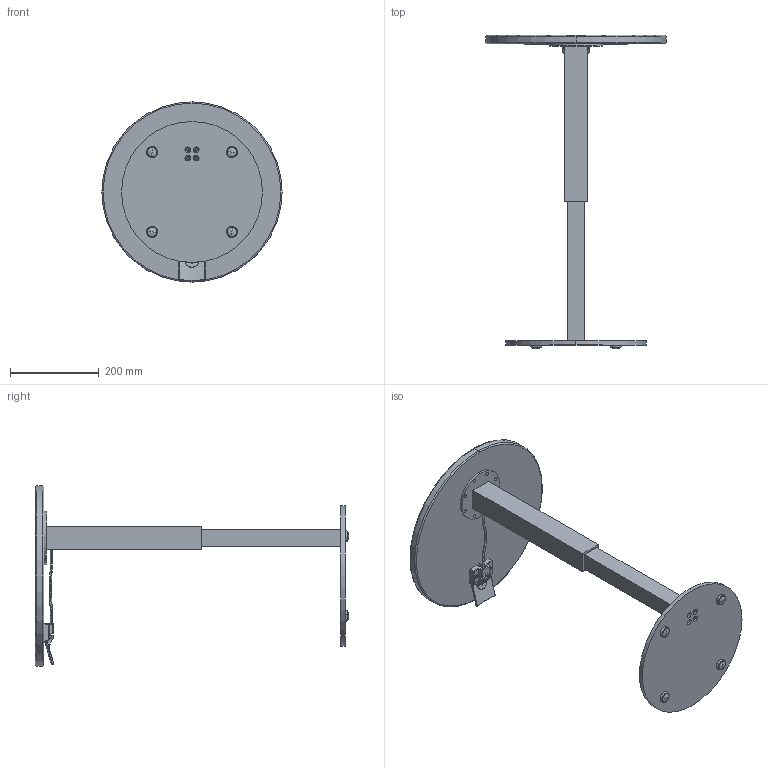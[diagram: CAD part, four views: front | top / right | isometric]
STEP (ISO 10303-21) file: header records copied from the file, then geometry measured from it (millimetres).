
FILE_DESCRIPTION (( 'STEP AP203' ), '1' );
FILE_NAME ('16 Round Long Mount-HT.ADJ-Highest Position.STEP', '2024-10-30T12:39:05', ( '' ), ( '' ), 'SwSTEP 2.0', 'SolidWorks 2021', '' );
FILE_SCHEMA (( 'CONFIG_CONTROL_DESIGN' ));
Length unit declared in the file: inch
Products named in the file (13): ALG-SS; TT-16R-EB; Paddle Control Base; 16 Round Long Mount-HT.ADJ-Highest Position; 12.5 Rnd. C-Base Plate Assy.; TT-16R; Short Paddle Shift Cable; Paddle; Proto laptop STAND_Fully Extended; TT-16R-Core; 12.5 Round, Long Mount Plate; TT-16R-Lam; Paddle Control
Assembly tree (15 placements, depth 3):
  16 Round Long Mount-HT.ADJ-Highest Position
    Proto laptop STAND_Fully Extended
    12.5 Rnd. C-Base Plate Assy.
      12.5 Round, Long Mount Plate
      ALG-SS  x4
    Paddle Control
      Paddle Control Base
      Paddle
    Short Paddle Shift Cable
    TT-16R
      TT-16R-Core
      TT-16R-Lam
      TT-16R-EB
Bounding box: 406.4 x 705.9 x 406.4 mm (x, y, z)
Volume: 4630309.6 mm3; surface area: 974550.9 mm2
Topology: 18 solids, 18 shells, 494 faces, 1130 edges, 661 vertices
Faces by surface type: cylinder 171, plane 139, cone 128, torus 22, bspline 18, sphere 16
Entity records: 12462 total; most frequent: CARTESIAN_POINT 2997, DIRECTION 1749, ORIENTED_EDGE 1610, EDGE_CURVE 805, AXIS2_PLACEMENT_3D 643, VERTEX_POINT 496, LINE 463, VECTOR 463
